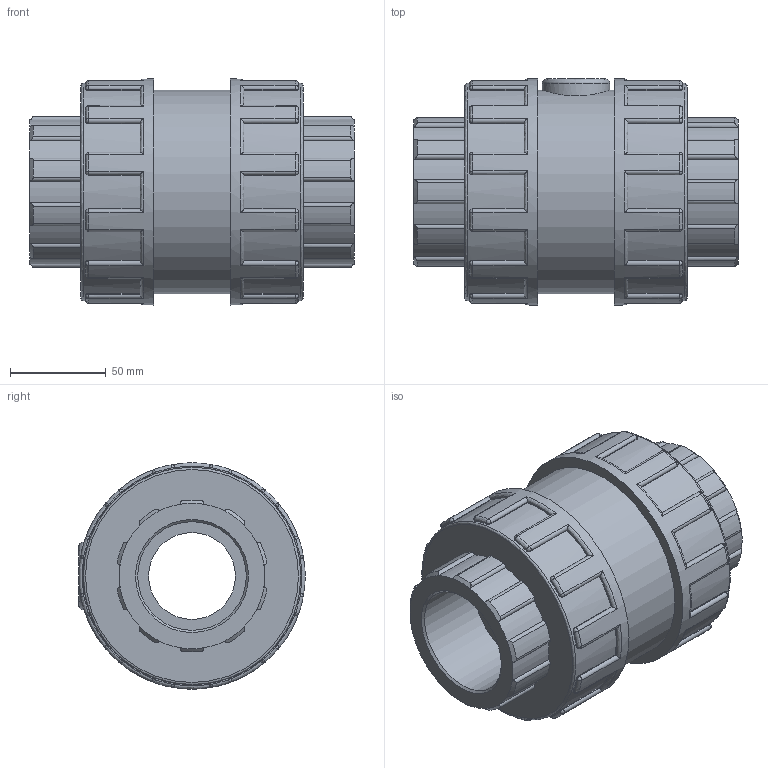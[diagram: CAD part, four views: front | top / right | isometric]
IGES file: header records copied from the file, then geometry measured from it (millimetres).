
Global section: file name: 11081020.ipt; native system: Autodesk Inventor 2015; preprocessor: unknown; author: KIM; date: 20171207.170056; units: millimetre
Bounding box: 169 x 118 x 118 mm (x, y, z)
Volume: 1064831.9 mm3; surface area: 105985.7 mm2
Topology: 1 solids, 1 shells, 411 faces, 1033 edges, 630 vertices
Faces by surface type: cylinder 182, plane 105, revolution 56, sphere 48, cone 20
Full cylindrical faces by diameter (mm): 35.4 x1, 106.2 x1, 113.28 x2, 118 x2
